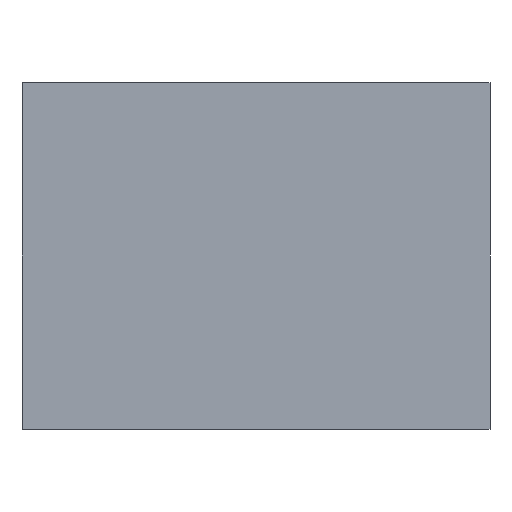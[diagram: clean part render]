
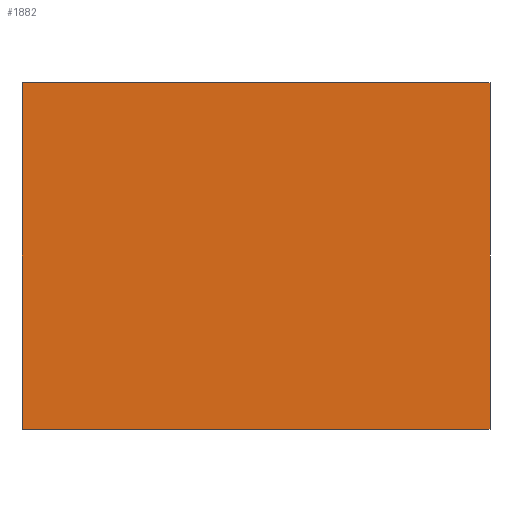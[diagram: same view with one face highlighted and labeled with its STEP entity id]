
A CAD part, front view. The second image highlights one B-rep face of the part: STEP entity #1882.
In plain terms, the highlighted planar face has unit normal (0, -1, 0).
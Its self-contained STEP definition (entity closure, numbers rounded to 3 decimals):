
#9 = VECTOR ( 'NONE', #193, 1000. ) ;
#172 = CARTESIAN_POINT ( 'NONE',  ( 42.5, 0., -31.5 ) ) ;
#193 = DIRECTION ( 'NONE',  ( 1., 0., 0. ) ) ;
#217 = CARTESIAN_POINT ( 'NONE',  ( 42.5, 0., 31.5 ) ) ;
#265 = CARTESIAN_POINT ( 'NONE',  ( -42.5, 0., 31.5 ) ) ;
#401 = ORIENTED_EDGE ( 'NONE', *, *, #2211, .F. ) ;
#440 = VECTOR ( 'NONE', #1941, 1000. ) ;
#574 = DIRECTION ( 'NONE',  ( 0., 0., 1. ) ) ;
#578 = DIRECTION ( 'NONE',  ( 0., 1., 0. ) ) ;
#603 = PLANE ( 'NONE',  #893 ) ;
#661 = CARTESIAN_POINT ( 'NONE',  ( 0., 0., 0. ) ) ;
#698 = LINE ( 'NONE', #1322, #986 ) ;
#771 = VERTEX_POINT ( 'NONE', #1360 ) ;
#868 = EDGE_LOOP ( 'NONE', ( #401, #898, #1451, #1895 ) ) ;
#893 = AXIS2_PLACEMENT_3D ( 'NONE', #661, #578, #574 ) ;
#898 = ORIENTED_EDGE ( 'NONE', *, *, #2230, .F. ) ;
#986 = VECTOR ( 'NONE', #1311, 1000. ) ;
#1098 = CARTESIAN_POINT ( 'NONE',  ( -42.5, 0., -31.5 ) ) ;
#1237 = VERTEX_POINT ( 'NONE', #217 ) ;
#1270 = VERTEX_POINT ( 'NONE', #172 ) ;
#1301 = DIRECTION ( 'NONE',  ( -1., 0., 0. ) ) ;
#1311 = DIRECTION ( 'NONE',  ( 0., 0., 1. ) ) ;
#1322 = CARTESIAN_POINT ( 'NONE',  ( -42.5, 0., -31.5 ) ) ;
#1360 = CARTESIAN_POINT ( 'NONE',  ( -42.5, 0., -31.5 ) ) ;
#1451 = ORIENTED_EDGE ( 'NONE', *, *, #1729, .F. ) ;
#1550 = LINE ( 'NONE', #265, #9 ) ;
#1695 = FACE_OUTER_BOUND ( 'NONE', #868, .T. ) ;
#1729 = EDGE_CURVE ( 'NONE', #771, #2050, #698, .T. ) ;
#1801 = EDGE_CURVE ( 'NONE', #1270, #771, #1873, .T. ) ;
#1873 = LINE ( 'NONE', #1098, #2258 ) ;
#1882 = ADVANCED_FACE ( 'NONE', ( #1695 ), #603, .F. ) ;
#1895 = ORIENTED_EDGE ( 'NONE', *, *, #1801, .F. ) ;
#1941 = DIRECTION ( 'NONE',  ( 0., 0., -1. ) ) ;
#1953 = CARTESIAN_POINT ( 'NONE',  ( 42.5, 0., -31.5 ) ) ;
#2001 = CARTESIAN_POINT ( 'NONE',  ( -42.5, 0., 31.5 ) ) ;
#2050 = VERTEX_POINT ( 'NONE', #2001 ) ;
#2211 = EDGE_CURVE ( 'NONE', #1237, #1270, #2255, .T. ) ;
#2230 = EDGE_CURVE ( 'NONE', #2050, #1237, #1550, .T. ) ;
#2255 = LINE ( 'NONE', #1953, #440 ) ;
#2258 = VECTOR ( 'NONE', #1301, 1000. ) ;
